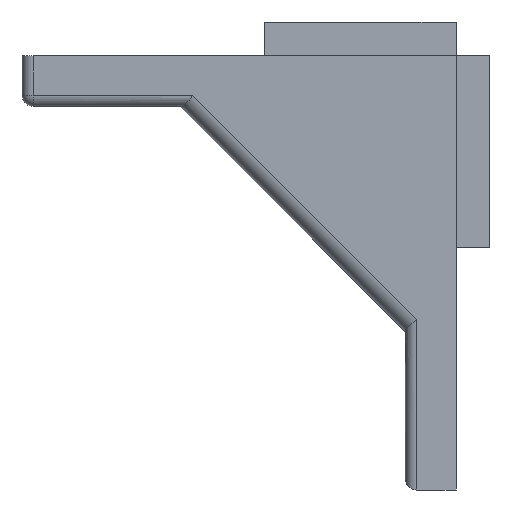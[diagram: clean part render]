
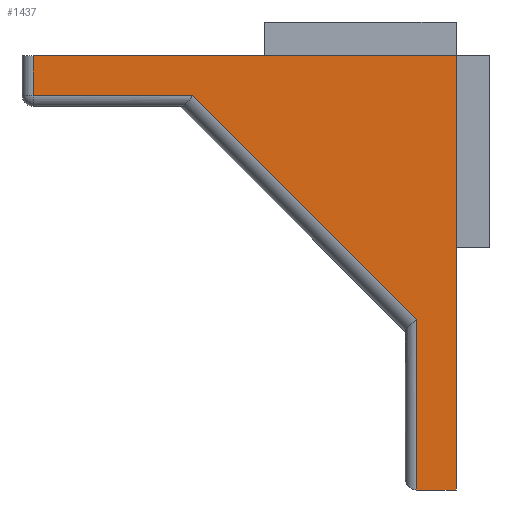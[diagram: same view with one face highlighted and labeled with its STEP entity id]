
A CAD part, left-side view. The second image highlights one B-rep face of the part: STEP entity #1437.
In plain terms, the highlighted planar face has unit normal (-1, 0, 0).
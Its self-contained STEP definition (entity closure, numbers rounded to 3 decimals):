
#7 = CARTESIAN_POINT ( 'NONE',  ( -21.333, -2.019, 1. ) ) ;
#18 = CARTESIAN_POINT ( 'NONE',  ( -21.333, -21.877, -18.903 ) ) ;
#70 = DIRECTION ( 'NONE',  ( 0., -1., 0. ) ) ;
#91 = VERTEX_POINT ( 'NONE', #589 ) ;
#143 = CARTESIAN_POINT ( 'NONE',  ( -21.333, -25.377, -34.01 ) ) ;
#149 = DIRECTION ( 'NONE',  ( 0., 1., 0. ) ) ;
#161 = EDGE_CURVE ( 'NONE', #703, #91, #1196, .T. ) ;
#173 = EDGE_LOOP ( 'NONE', ( #596, #921, #844, #494, #1511, #723, #674 ) ) ;
#195 = VERTEX_POINT ( 'NONE', #940 ) ;
#239 = DIRECTION ( 'NONE',  ( 0., 0., -1. ) ) ;
#288 = VERTEX_POINT ( 'NONE', #1602 ) ;
#296 = VECTOR ( 'NONE', #689, 1000. ) ;
#298 = EDGE_CURVE ( 'NONE', #195, #666, #1362, .T. ) ;
#305 = AXIS2_PLACEMENT_3D ( 'NONE', #742, #619, #1521 ) ;
#364 = LINE ( 'NONE', #143, #998 ) ;
#369 = PLANE ( 'NONE',  #305 ) ;
#415 = VECTOR ( 'NONE', #428, 1000. ) ;
#428 = DIRECTION ( 'NONE',  ( 0., 1., 0. ) ) ;
#435 = LINE ( 'NONE', #1507, #1419 ) ;
#494 = ORIENTED_EDGE ( 'NONE', *, *, #554, .F. ) ;
#528 = CARTESIAN_POINT ( 'NONE',  ( -21.333, -25.377, -34.01 ) ) ;
#529 = VERTEX_POINT ( 'NONE', #642 ) ;
#554 = EDGE_CURVE ( 'NONE', #529, #288, #364, .T. ) ;
#589 = CARTESIAN_POINT ( 'NONE',  ( -21.333, -21.877, -34.01 ) ) ;
#596 = ORIENTED_EDGE ( 'NONE', *, *, #1217, .T. ) ;
#606 = DIRECTION ( 'NONE',  ( 0., 0., -1. ) ) ;
#619 = DIRECTION ( 'NONE',  ( -1., 0., 0. ) ) ;
#642 = CARTESIAN_POINT ( 'NONE',  ( -21.333, -25.377, 4.5 ) ) ;
#646 = VERTEX_POINT ( 'NONE', #883 ) ;
#666 = VERTEX_POINT ( 'NONE', #7 ) ;
#673 = CARTESIAN_POINT ( 'NONE',  ( -21.333, -20.877, 4.5 ) ) ;
#674 = ORIENTED_EDGE ( 'NONE', *, *, #298, .T. ) ;
#689 = DIRECTION ( 'NONE',  ( 0., -0.706, -0.708 ) ) ;
#703 = VERTEX_POINT ( 'NONE', #18 ) ;
#719 = DIRECTION ( 'NONE',  ( 0., 0., -1. ) ) ;
#723 = ORIENTED_EDGE ( 'NONE', *, *, #1359, .T. ) ;
#742 = CARTESIAN_POINT ( 'NONE',  ( -21.333, -20.877, 4.5 ) ) ;
#753 = EDGE_CURVE ( 'NONE', #288, #91, #1320, .T. ) ;
#844 = ORIENTED_EDGE ( 'NONE', *, *, #753, .F. ) ;
#853 = VECTOR ( 'NONE', #719, 1000. ) ;
#883 = CARTESIAN_POINT ( 'NONE',  ( -21.333, 12.123, 4.5 ) ) ;
#921 = ORIENTED_EDGE ( 'NONE', *, *, #161, .T. ) ;
#932 = LINE ( 'NONE', #1466, #296 ) ;
#940 = CARTESIAN_POINT ( 'NONE',  ( -21.333, 12.123, 1. ) ) ;
#975 = VECTOR ( 'NONE', #149, 1000. ) ;
#998 = VECTOR ( 'NONE', #239, 1000. ) ;
#1130 = EDGE_CURVE ( 'NONE', #529, #646, #1434, .T. ) ;
#1196 = LINE ( 'NONE', #1628, #853 ) ;
#1217 = EDGE_CURVE ( 'NONE', #666, #703, #932, .T. ) ;
#1320 = LINE ( 'NONE', #528, #975 ) ;
#1323 = VECTOR ( 'NONE', #70, 1000. ) ;
#1334 = FACE_OUTER_BOUND ( 'NONE', #173, .T. ) ;
#1345 = CARTESIAN_POINT ( 'NONE',  ( -21.333, -20.877, 1. ) ) ;
#1359 = EDGE_CURVE ( 'NONE', #646, #195, #435, .T. ) ;
#1362 = LINE ( 'NONE', #1345, #1323 ) ;
#1419 = VECTOR ( 'NONE', #606, 1000. ) ;
#1434 = LINE ( 'NONE', #673, #415 ) ;
#1437 = ADVANCED_FACE ( 'NONE', ( #1334 ), #369, .T. ) ;
#1466 = CARTESIAN_POINT ( 'NONE',  ( -21.333, -9.677, -6.675 ) ) ;
#1507 = CARTESIAN_POINT ( 'NONE',  ( -21.333, 12.123, 4.5 ) ) ;
#1511 = ORIENTED_EDGE ( 'NONE', *, *, #1130, .T. ) ;
#1521 = DIRECTION ( 'NONE',  ( 0., 0., 1. ) ) ;
#1602 = CARTESIAN_POINT ( 'NONE',  ( -21.333, -25.377, -34.01 ) ) ;
#1628 = CARTESIAN_POINT ( 'NONE',  ( -21.333, -21.877, 4.5 ) ) ;
